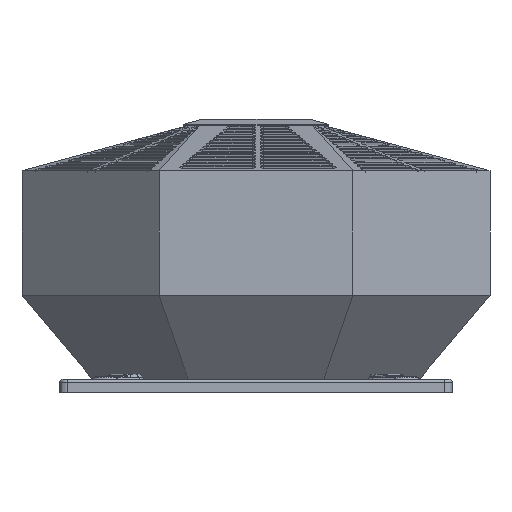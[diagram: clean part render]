
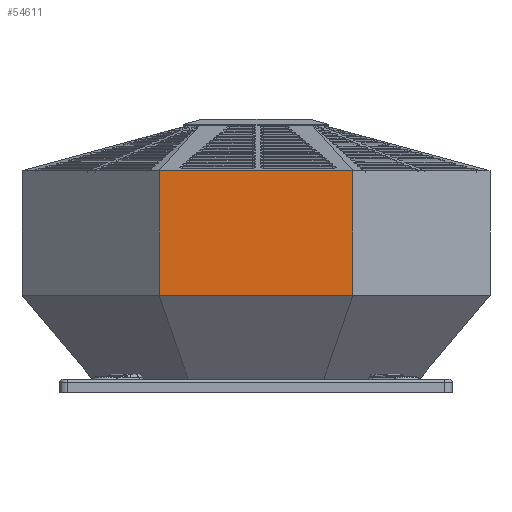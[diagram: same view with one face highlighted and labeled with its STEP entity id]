
A CAD part, left-side view. The second image highlights one B-rep face of the part: STEP entity #54611.
In plain terms, the highlighted planar face has unit normal (-1, 0, 0).
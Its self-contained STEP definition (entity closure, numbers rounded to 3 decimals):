
#7836=FACE_OUTER_BOUND('',#11097,.T.);
#11097=EDGE_LOOP('',(#49024,#49025,#49026,#49027));
#16126=LINE('',#93515,#21079);
#16137=LINE('',#93538,#21090);
#16138=LINE('',#93540,#21091);
#16139=LINE('',#93541,#21092);
#21079=VECTOR('',#72721,10.);
#21090=VECTOR('',#72744,10.);
#21091=VECTOR('',#72745,10.);
#21092=VECTOR('',#72746,10.);
#26158=VERTEX_POINT('',#93507);
#26160=VERTEX_POINT('',#93513);
#26166=VERTEX_POINT('',#93537);
#26167=VERTEX_POINT('',#93539);
#33821=EDGE_CURVE('',#26158,#26160,#16126,.T.);
#33832=EDGE_CURVE('',#26166,#26160,#16137,.T.);
#33833=EDGE_CURVE('',#26166,#26167,#16138,.T.);
#33834=EDGE_CURVE('',#26167,#26158,#16139,.T.);
#49024=ORIENTED_EDGE('',*,*,#33821,.T.);
#49025=ORIENTED_EDGE('',*,*,#33832,.F.);
#49026=ORIENTED_EDGE('',*,*,#33833,.T.);
#49027=ORIENTED_EDGE('',*,*,#33834,.T.);
#51843=PLANE('',#59134);
#54611=ADVANCED_FACE('',(#7836),#51843,.T.);
#59134=AXIS2_PLACEMENT_3D('',#93536,#72742,#72743);
#72721=DIRECTION('',(0.,1.,0.));
#72742=DIRECTION('center_axis',(-1.,0.,0.));
#72743=DIRECTION('ref_axis',(0.,-1.,0.));
#72744=DIRECTION('',(0.,0.,1.));
#72745=DIRECTION('',(0.,-1.,0.));
#72746=DIRECTION('',(0.,0.,1.));
#93507=CARTESIAN_POINT('',(-257.244,-58.354,225.));
#93513=CARTESIAN_POINT('',(-257.244,156.623,225.));
#93515=CARTESIAN_POINT('',(-257.244,232.629,225.));
#93536=CARTESIAN_POINT('Origin',(-257.244,156.623,-6.));
#93537=CARTESIAN_POINT('',(-257.244,156.623,87.));
#93538=CARTESIAN_POINT('',(-257.244,156.623,-6.));
#93539=CARTESIAN_POINT('',(-257.244,-58.354,87.));
#93540=CARTESIAN_POINT('',(-257.244,232.629,87.));
#93541=CARTESIAN_POINT('',(-257.244,-58.354,-6.));
